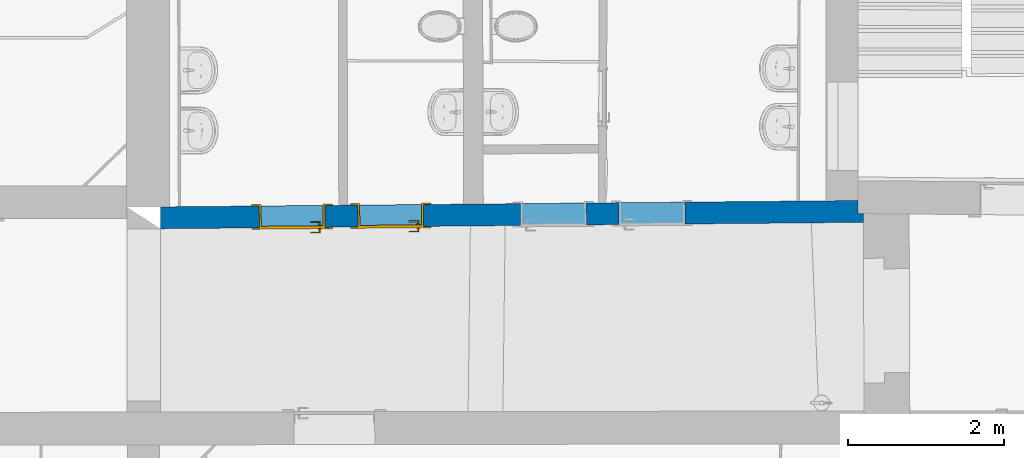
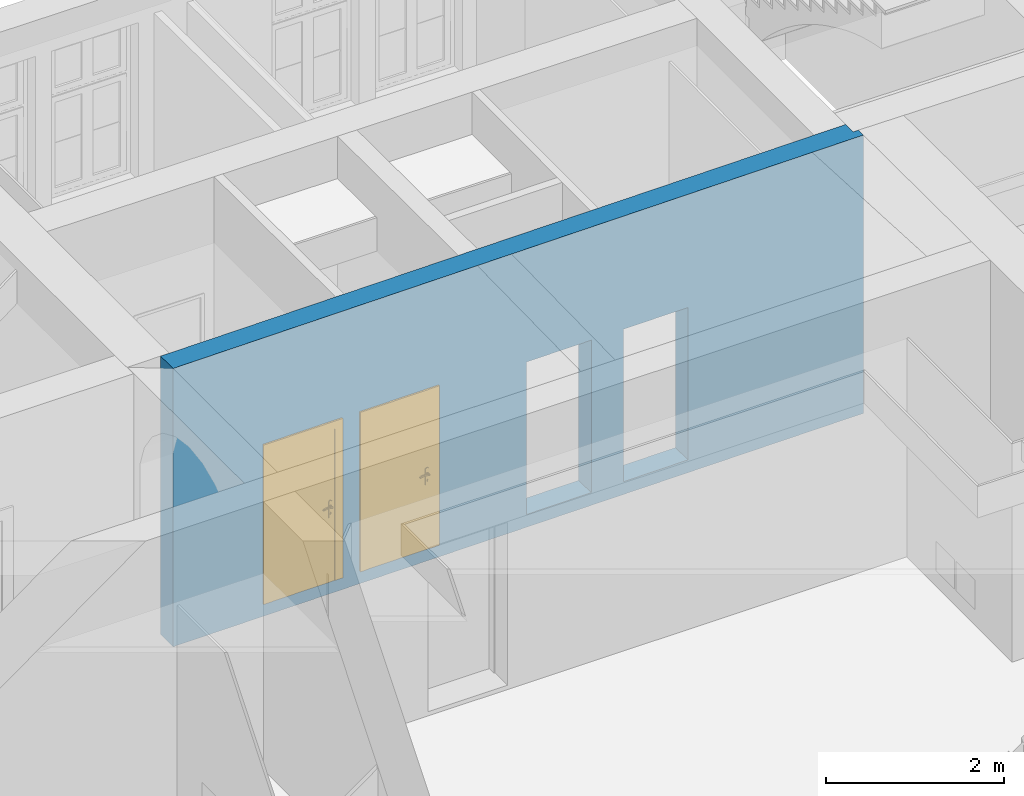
# One storey, part 64 of 158: 2 doors, 1 wall, 4 openings.
"""IFC2X3 building model written with IfcOpenShell, lengths in metres."""

from ifc_helpers import new_model, entity, si_unit, converted_unit, derived_unit, money_unit, direction, frame, origin_with_axes, origin_2d_with_axis, place, context, subcontext, project, spatial, polyline, rectangle, outline, extrude, boolean, faceted_brep, source, transform, mapped, material, type_object, element, fill, save


model = new_model("IFC2X3")

# Units and contexts
model_context = context("Model", 3, precision=1e-05, world=origin_with_axes(), true_north=direction((0.0, 1.0)))
body_context = subcontext(model_context, "Body", "Model", "MODEL_VIEW")
ifc_project = project(units=[si_unit("LENGTHUNIT", "METRE"), si_unit("AREAUNIT", "SQUARE_METRE"), si_unit("VOLUMEUNIT", "CUBIC_METRE"), converted_unit("PLANEANGLEUNIT", "DEGREE", entity("IfcPlaneAngleMeasure", 0.0174532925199), si_unit("PLANEANGLEUNIT", "RADIAN"), dimensions=[0, 0, 0, 0, 0, 0, 0]), money_unit("EUR"), converted_unit("TIMEUNIT", "Year", entity("IfcTimeMeasure", 31556926.0), si_unit("TIMEUNIT", "SECOND"), dimensions=[0, 0, 1, 0, 0, 0, 0]), si_unit("MASSUNIT", "GRAM", prefix="KILO"), si_unit("THERMODYNAMICTEMPERATUREUNIT", "DEGREE_CELSIUS"), si_unit("LUMINOUSINTENSITYUNIT", "LUMEN"), si_unit("ENERGYUNIT", "JOULE", prefix="MEGA"), derived_unit("THERMALCONDUCTANCEUNIT", [(si_unit("POWERUNIT", "WATT"), 1), (si_unit("LENGTHUNIT", "METRE"), -1), (si_unit("THERMODYNAMICTEMPERATUREUNIT", "KELVIN"), -1)]), derived_unit("SPECIFICHEATCAPACITYUNIT", [(si_unit("ENERGYUNIT", "JOULE"), 1), (si_unit("MASSUNIT", "GRAM", prefix="KILO"), -1), (si_unit("THERMODYNAMICTEMPERATUREUNIT", "KELVIN"), -1)]), derived_unit("MASSDENSITYUNIT", [(si_unit("MASSUNIT", "GRAM", prefix="KILO"), 1), (si_unit("VOLUMEUNIT", "CUBIC_METRE"), -1)])], contexts=[model_context])

# Site, building, storey
site_placement = place(None, origin_with_axes())
site = spatial("IfcSite", under=ifc_project, at=site_placement, Name="Gelände", CompositionType="ELEMENT")
building_placement = place(site_placement, origin_with_axes())
building = spatial("IfcBuilding", under=site, at=building_placement, Name="Gebäude", CompositionType="ELEMENT")
storey_placement = place(building_placement, origin_with_axes())
storey = spatial("IfcBuildingStorey", under=building, at=storey_placement, Name="ERDGESCHOSS", CompositionType="ELEMENT", Elevation=0.0)

# Wall, openings, doors
ifc_material = material(Name="05_ALLGEMEIN - TRAGENDE BAUTEILE")
wall_type = type_object("IfcWallType", Name="05_ALLGEMEIN - TRAGENDE BAUTEILE 280", PredefinedType="ELEMENTEDWALL")
wall_placement = place(storey_placement, frame((12.5468745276, 19.1446213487, -0.21), z_axis=(0.0, 0.0, 1.0), x_axis=(0.999958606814, 0.0090986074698, 0.0)))
wall = element("IfcWall", 1, at=wall_placement, inside=storey, type_object=wall_type, material=ifc_material, Name="Wand-039", ObjectType="ELEMENTEDWALL", context=body_context, shape_type="CSG", body=[
    boolean("DIFFERENCE", boolean("DIFFERENCE", extrude(outline(polyline([(0.0, 0.0), (10.0039420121, 0.0), (10.0039420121, 0.28), (0.0, 0.28), (0.0, 0.0)])), frame((0.0, 0.0, -4.88479656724e-09), z_axis=(0.0, 0.0, 1.0), x_axis=(1.0, 0.0, 0.0)), (0.0, 0.0, 1.0), 3.81000000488), faceted_brep([(0.430900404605, 0.0, 0.0), (0.430900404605, 0.0, 3.81), (0.0, 0.0, 3.81), (0.0, 0.0, -4.88479656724e-09), (0.433312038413, 0.28, 3.81), (0.433312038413, 0.28, 0.0), (0.0, 0.28, 3.81), (0.0, 0.28, -4.88479656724e-09)], [[[0, 1, 2, 3]], [[4, 1, 0, 5]], [[1, 4, 6, 2]], [[6, 7, 3, 2]], [[5, 0, 3, 7]], [[4, 5, 7, 6]]])), faceted_brep([(9.34821729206, 0.113054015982, 3.81), (9.41806479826, 0.111830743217, 3.81), (9.41739932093, 0.0, 3.81), (10.0039420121, 0.0, 3.81), (10.0039420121, 0.28, 3.81), (9.34995403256, 0.28, 3.81), (9.34821729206, 0.113054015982, -4.88479656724e-09), (9.41806479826, 0.111830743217, -4.88479656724e-09), (9.41739932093, 0.0, 0.0), (10.0039420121, 0.0, -4.88479656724e-09), (10.0039420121, 0.28, -4.88479656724e-09), (9.34995403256, 0.28, -4.88479656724e-09)], [[[0, 1, 2, 3, 4, 5]], [[1, 0, 6, 7]], [[8, 2, 1, 7]], [[2, 8, 9, 3]], [[3, 9, 10, 4]], [[11, 5, 4, 10]], [[0, 5, 11, 6]], [[6, 11, 10, 9, 8, 7]]])),
])
opening_1_placement = place(wall_placement, frame((2.11429402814, 0.0, 0.174823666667), z_axis=(0.0, 0.0, 1.0), x_axis=(1.0, 0.0, 0.0)))
opening_1 = element("IfcOpeningElement", 2, at=opening_1_placement, cuts=wall, Name="Tür-022", context=body_context, shape_type="SweptSolid", body=[
    extrude(rectangle(XDim=0.840428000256, YDim=2.086604, at=origin_2d_with_axis()), frame((0.0, -0.28, 1.043302), z_axis=(0.0, 1.0, 0.0), x_axis=(-1.0, 0.0, 0.0)), (0.0, 0.0, 1.0), 0.84),
])
opening_2_placement = place(wall_placement, frame((3.37398862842, 0.0, 0.174823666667), z_axis=(0.0, 0.0, 1.0), x_axis=(1.0, 0.0, 0.0)))
opening_2 = element("IfcOpeningElement", 3, at=opening_2_placement, cuts=wall, Name="Tür-022", context=body_context, shape_type="SweptSolid", body=[
    extrude(rectangle(XDim=0.840428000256, YDim=2.086604, at=origin_2d_with_axis()), frame((0.0, -0.28, 1.043302), z_axis=(0.0, 1.0, 0.0), x_axis=(-1.0, 0.0, 0.0)), (0.0, 0.0, 1.0), 0.84),
])
opening_3_placement = place(wall_placement, frame((5.45457419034, 0.0, 0.174823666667), z_axis=(0.0, 0.0, 1.0), x_axis=(1.0, 0.0, 0.0)))
element("IfcOpeningElement", 4, at=opening_3_placement, cuts=wall, Name="Tür-022", context=body_context, shape_type="SweptSolid", body=[
    extrude(rectangle(XDim=0.840428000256, YDim=2.086604, at=origin_2d_with_axis()), frame((0.0, 0.28, 1.043302), z_axis=(0.0, 1.0, 0.0), x_axis=(1.0, 0.0, 0.0)), (0.0, 0.0, -1.0), 0.84),
])
opening_4_placement = place(wall_placement, frame((6.71486413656, 0.0, 0.174823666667), z_axis=(0.0, 0.0, 1.0), x_axis=(1.0, 0.0, 0.0)))
element("IfcOpeningElement", 5, at=opening_4_placement, cuts=wall, Name="Tür-022", context=body_context, shape_type="SweptSolid", body=[
    extrude(rectangle(XDim=0.840428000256, YDim=2.086604, at=origin_2d_with_axis()), frame((0.0, 0.28, 1.043302), z_axis=(0.0, 1.0, 0.0), x_axis=(1.0, 0.0, 0.0)), (0.0, 0.0, -1.0), 0.84),
])
door_style = type_object("IfcDoorStyle", Name="Blockrahmentür 1-Fl 25", ConstructionType="NOTDEFINED", OperationType="SINGLE_SWING_RIGHT", ParameterTakesPrecedence=False, Sizeable=False)
shared_shape = source(origin_with_axes(), body_context, "Body", "Brep", [
    faceted_brep([(0.420214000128, -0.34, 0.0), (0.420214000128, -0.06, 0.0), (0.420214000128, -0.06, 2.086604), (0.420214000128, -0.34, 2.086604), (0.395214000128, -0.34, 0.0), (0.395214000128, -0.06, 0.0), (0.395214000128, -0.06, 2.061604), (0.1151, -0.06, 2.061604), (0.0001, -0.06, 2.061604), (-0.395214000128, -0.06, 2.061604), (-0.395214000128, -0.06, 0.0), (-0.420214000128, -0.06, 0.0), (-0.420214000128, -0.06, 2.086604), (-0.420214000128, -0.34, 2.086604), (-0.420214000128, -0.34, 0.0), (-0.395214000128, -0.34, 0.0), (-0.395214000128, -0.34, 2.061604), (0.0001, -0.34, 2.061604), (0.1151, -0.34, 2.061604), (0.395214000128, -0.34, 2.061604)], [[[0, 1, 2, 3]], [[4, 5, 1, 0]], [[1, 5, 6, 7, 8, 9, 10, 11, 12, 2]], [[3, 2, 12, 13]], [[0, 3, 13, 14, 15, 16, 17, 18, 19, 4]], [[19, 6, 5, 4]], [[18, 7, 6, 19]], [[17, 8, 7, 18]], [[16, 9, 8, 17]], [[15, 10, 9, 16]], [[14, 11, 10, 15]], [[13, 12, 11, 14]]]),
    faceted_brep([(0.420214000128, -0.06, 0.0), (0.420214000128, -0.02, 0.0), (0.420214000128, -0.02, 2.086604), (0.420214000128, -0.06, 2.086604), (0.410214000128, -0.06, 0.0), (0.410214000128, -0.02, 0.0), (0.410214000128, -0.02, 2.076604), (0.1001, -0.02, 2.076604), (0.0151, -0.02, 2.076604), (-0.410214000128, -0.02, 2.076604), (-0.410214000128, -0.02, 0.0), (-0.420214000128, -0.02, 0.0), (-0.420214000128, -0.02, 2.086604), (-0.420214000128, -0.06, 2.086604), (-0.420214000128, -0.06, 0.0), (-0.410214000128, -0.06, 0.0), (-0.410214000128, -0.06, 2.076604), (0.0151, -0.06, 2.076604), (0.1001, -0.06, 2.076604), (0.410214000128, -0.06, 2.076604)], [[[0, 1, 2, 3]], [[4, 5, 1, 0]], [[1, 5, 6, 7, 8, 9, 10, 11, 12, 2]], [[3, 2, 12, 13]], [[0, 3, 13, 14, 15, 16, 17, 18, 19, 4]], [[19, 6, 5, 4]], [[18, 7, 6, 19]], [[17, 8, 7, 18]], [[16, 9, 8, 17]], [[15, 10, 9, 16]], [[14, 11, 10, 15]], [[13, 12, 11, 14]]]),
    faceted_brep([(0.515214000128, -0.34, 0.0), (0.515214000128, -0.32, 0.0), (0.515214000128, -0.32, 2.181604), (0.515214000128, -0.34, 2.181604), (0.420214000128, -0.34, 0.0), (0.420214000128, -0.32, 0.0), (0.420214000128, -0.32, 2.086604), (-0.420214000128, -0.32, 2.086604), (-0.420214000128, -0.32, 0.0), (-0.515214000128, -0.32, 0.0), (-0.515214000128, -0.32, 2.181604), (-0.515214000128, -0.34, 2.181604), (-0.515214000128, -0.34, 0.0), (-0.420214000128, -0.34, 0.0), (-0.420214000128, -0.34, 2.086604), (0.420214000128, -0.34, 2.086604)], [[[0, 1, 2, 3]], [[4, 5, 1, 0]], [[1, 5, 6, 7, 8, 9, 10, 2]], [[3, 2, 10, 11]], [[0, 3, 11, 12, 13, 14, 15, 4]], [[15, 6, 5, 4]], [[14, 7, 6, 15]], [[13, 8, 7, 14]], [[12, 9, 8, 13]], [[11, 10, 9, 12]]]),
    faceted_brep([(0.515214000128, -0.04, 0.0), (0.515214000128, -0.02, 0.0), (0.515214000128, -0.02, 2.181604), (0.515214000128, -0.04, 2.181604), (0.420214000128, -0.04, 0.0), (0.420214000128, -0.02, 0.0), (0.420214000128, -0.02, 2.086604), (-0.420214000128, -0.02, 2.086604), (-0.420214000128, -0.02, 0.0), (-0.515214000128, -0.02, 0.0), (-0.515214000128, -0.02, 2.181604), (-0.515214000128, -0.04, 2.181604), (-0.515214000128, -0.04, 0.0), (-0.420214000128, -0.04, 0.0), (-0.420214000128, -0.04, 2.086604), (0.420214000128, -0.04, 2.086604)], [[[0, 1, 2, 3]], [[4, 5, 1, 0]], [[1, 5, 6, 7, 8, 9, 10, 2]], [[3, 2, 10, 11]], [[0, 3, 11, 12, 13, 14, 15, 4]], [[15, 6, 5, 4]], [[14, 7, 6, 15]], [[13, 8, 7, 14]], [[12, 9, 8, 13]], [[11, 10, 9, 12]]]),
    faceted_brep([(0.410214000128, -0.023, 0.0), (-0.410214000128, -0.023, 0.0), (-0.410214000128, -0.023, 2.076604), (0.410214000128, -0.023, 2.076604), (0.410214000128, -0.06, 0.0), (-0.410214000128, -0.06, 0.0), (-0.410214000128, -0.06, 2.076604), (0.410214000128, -0.06, 2.076604)], [[[0, 1, 2, 3]], [[1, 0, 4, 5]], [[2, 1, 5, 6]], [[3, 2, 6, 7]], [[0, 3, 7, 4]], [[5, 4, 7, 6]]]),
    faceted_brep([(-0.354916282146, -0.1, 1.05647213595), (-0.350214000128, -0.1, 1.058), (-0.350214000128, -0.08, 1.058), (-0.354916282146, -0.08, 1.05647213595), (-0.357822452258, -0.1, 1.05247213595), (-0.357822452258, -0.1, 1.04752786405), (-0.354916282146, -0.1, 1.04352786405), (-0.350214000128, -0.1, 1.042), (-0.34551171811, -0.1, 1.04352786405), (-0.342605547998, -0.1, 1.04752786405), (-0.342605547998, -0.1, 1.05247213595), (-0.34551171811, -0.1, 1.05647213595), (-0.34551171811, -0.08, 1.05647213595), (-0.350214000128, -0.078, 1.06), (-0.356091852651, -0.078, 1.05809016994), (-0.357822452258, -0.08, 1.05247213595), (-0.357822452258, -0.08, 1.04752786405), (-0.354916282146, -0.08, 1.04352786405), (-0.350214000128, -0.08, 1.042), (-0.34551171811, -0.08, 1.04352786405), (-0.342605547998, -0.08, 1.04752786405), (-0.342605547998, -0.08, 1.05247213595), (-0.344336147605, -0.078, 1.05809016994), (-0.350214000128, -0.07, 1.06), (-0.356091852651, -0.07, 1.05809016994), (-0.359724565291, -0.078, 1.05309016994), (-0.359724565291, -0.078, 1.04690983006), (-0.356091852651, -0.078, 1.04190983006), (-0.350214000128, -0.078, 1.04), (-0.344336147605, -0.078, 1.04190983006), (-0.340703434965, -0.078, 1.04690983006), (-0.340703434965, -0.078, 1.05309016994), (-0.344336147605, -0.07, 1.05809016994), (-0.340703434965, -0.07, 1.05309016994), (-0.340703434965, -0.07, 1.04690983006), (-0.344336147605, -0.07, 1.04190983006), (-0.350214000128, -0.07, 1.04), (-0.356091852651, -0.07, 1.04190983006), (-0.359724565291, -0.07, 1.04690983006), (-0.359724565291, -0.07, 1.05309016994)], [[[0, 1, 2, 3]], [[1, 0, 4, 5, 6, 7, 8, 9, 10, 11]], [[1, 11, 12, 2]], [[3, 2, 13, 14]], [[4, 0, 3, 15]], [[5, 4, 15, 16]], [[6, 5, 16, 17]], [[7, 6, 17, 18]], [[8, 7, 18, 19]], [[9, 8, 19, 20]], [[10, 9, 20, 21]], [[11, 10, 21, 12]], [[2, 12, 22, 13]], [[14, 13, 23, 24]], [[15, 3, 14, 25]], [[16, 15, 25, 26]], [[17, 16, 26, 27]], [[18, 17, 27, 28]], [[19, 18, 28, 29]], [[20, 19, 29, 30]], [[21, 20, 30, 31]], [[12, 21, 31, 22]], [[13, 22, 32, 23]], [[23, 32, 33, 34, 35, 36, 37, 38, 39, 24]], [[25, 14, 24, 39]], [[26, 25, 39, 38]], [[27, 26, 38, 37]], [[28, 27, 37, 36]], [[29, 28, 36, 35]], [[30, 29, 35, 34]], [[31, 30, 34, 33]], [[22, 31, 33, 32]]]),
    faceted_brep([(-0.338025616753, -0.07, 1.11759695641), (-0.345770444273, -0.07, 1.12195567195), (-0.354657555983, -0.07, 1.12195567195), (-0.362402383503, -0.07, 1.11759695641), (-0.367014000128, -0.07, 1.11), (-0.372714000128, -0.07, 1.11), (-0.372714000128, -0.07, 0.89), (-0.367014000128, -0.07, 0.89), (-0.362402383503, -0.07, 0.882403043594), (-0.354657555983, -0.07, 0.878044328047), (-0.345770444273, -0.07, 0.878044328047), (-0.338025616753, -0.07, 0.882403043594), (-0.333414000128, -0.07, 0.89), (-0.327714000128, -0.07, 0.89), (-0.327714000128, -0.07, 1.11), (-0.333414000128, -0.07, 1.11), (-0.350214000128, -0.07, 0.967425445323), (-0.344838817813, -0.07, 0.965143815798), (-0.342746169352, -0.07, 0.959692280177), (-0.345214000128, -0.07, 0.9544), (-0.345214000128, -0.07, 0.9375), (-0.346678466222, -0.07, 0.933964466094), (-0.350214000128, -0.07, 0.9325), (-0.353749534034, -0.07, 0.933964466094), (-0.355214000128, -0.07, 0.9375), (-0.355214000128, -0.07, 0.9544), (-0.357681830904, -0.07, 0.959692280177), (-0.355589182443, -0.07, 0.965143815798), (-0.338025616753, -0.06, 1.11759695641), (-0.345770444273, -0.06, 1.12195567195), (-0.354657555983, -0.06, 1.12195567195), (-0.362402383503, -0.06, 1.11759695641), (-0.367014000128, -0.06, 1.11), (-0.372714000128, -0.06, 1.11), (-0.372714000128, -0.06, 0.89), (-0.367014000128, -0.06, 0.89), (-0.362402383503, -0.06, 0.882403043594), (-0.354657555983, -0.06, 0.878044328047), (-0.345770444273, -0.06, 0.878044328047), (-0.338025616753, -0.06, 0.882403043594), (-0.333414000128, -0.06, 0.89), (-0.327714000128, -0.06, 0.89), (-0.327714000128, -0.06, 1.11), (-0.333414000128, -0.06, 1.11), (-0.350214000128, -0.06, 0.967425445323), (-0.344838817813, -0.06, 0.965143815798), (-0.342746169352, -0.06, 0.959692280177), (-0.345214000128, -0.06, 0.9544), (-0.345214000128, -0.06, 0.9375), (-0.346678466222, -0.06, 0.933964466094), (-0.350214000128, -0.06, 0.9325), (-0.353749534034, -0.06, 0.933964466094), (-0.355214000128, -0.06, 0.9375), (-0.355214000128, -0.06, 0.9544), (-0.357681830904, -0.06, 0.959692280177), (-0.355589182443, -0.06, 0.965143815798)], [[[0, 1, 2, 3, 4, 5, 6, 7, 8, 9, 10, 11, 12, 13, 14, 15], [16, 17, 18, 19, 20, 21, 22, 23, 24, 25, 26, 27]], [[1, 0, 28, 29]], [[2, 1, 29, 30]], [[3, 2, 30, 31]], [[4, 3, 31, 32]], [[5, 4, 32, 33]], [[6, 5, 33, 34]], [[7, 6, 34, 35]], [[8, 7, 35, 36]], [[9, 8, 36, 37]], [[10, 9, 37, 38]], [[11, 10, 38, 39]], [[12, 11, 39, 40]], [[13, 12, 40, 41]], [[14, 13, 41, 42]], [[15, 14, 42, 43]], [[0, 15, 43, 28]], [[17, 16, 44, 45]], [[18, 17, 45, 46]], [[19, 18, 46, 47]], [[19, 47, 48, 20]], [[20, 48, 49, 21]], [[21, 49, 50, 22]], [[22, 50, 51, 23]], [[23, 51, 52, 24]], [[53, 25, 24, 52]], [[26, 25, 53, 54]], [[27, 26, 54, 55]], [[16, 27, 55, 44]], [[40, 39, 38, 37, 36, 35, 34, 33, 32, 31, 30, 29, 28, 43, 42, 41], [54, 53, 52, 51, 50, 49, 48, 47, 46, 45, 44, 55]]]),
    faceted_brep([(-0.235961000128, -0.1, 1.057158), (-0.235961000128, -0.115, 1.057158), (-0.235959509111, -0.115, 1.05719388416), (-0.235959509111, -0.1, 1.05719388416), (-0.262988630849, -0.1, 1.06432652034), (-0.262988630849, -0.115, 1.06432652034), (-0.290816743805, -0.115, 1.06706086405), (-0.318722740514, -0.115, 1.06529002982), (-0.345982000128, -0.115, 1.05906), (-0.352384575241, -0.115, 1.05976125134), (-0.357886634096, -0.115, 1.05641280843), (-0.360205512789, -0.115, 1.05040385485), (-0.35837916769, -0.115, 1.04422735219), (-0.353165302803, -0.115, 1.04044577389), (-0.346727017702, -0.115, 1.04062800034), (-0.341735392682, -0.115, 1.04469843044), (-0.341756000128, -0.115, 1.044666), (-0.316467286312, -0.115, 1.05019878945), (-0.290624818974, -0.115, 1.05171460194), (-0.26486268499, -0.115, 1.04917624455), (-0.239813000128, -0.115, 1.042646), (-0.234269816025, -0.115, 1.04356849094), (-0.230908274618, -0.115, 1.04807159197), (-0.231599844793, -0.115, 1.05364829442), (-0.231599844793, -0.1, 1.05364829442), (-0.230908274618, -0.1, 1.04807159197), (-0.234269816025, -0.1, 1.04356849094), (-0.239813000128, -0.1, 1.042646), (-0.26486268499, -0.1, 1.04917624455), (-0.290624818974, -0.1, 1.05171460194), (-0.316467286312, -0.1, 1.05019878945), (-0.341756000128, -0.1, 1.044666), (-0.341735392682, -0.1, 1.04469843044), (-0.346727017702, -0.1, 1.04062800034), (-0.353165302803, -0.1, 1.04044577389), (-0.35837916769, -0.1, 1.04422735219), (-0.360205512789, -0.1, 1.05040385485), (-0.357886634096, -0.1, 1.05641280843), (-0.352384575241, -0.1, 1.05976125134), (-0.345982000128, -0.1, 1.05906), (-0.318722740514, -0.1, 1.06529002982), (-0.290816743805, -0.1, 1.06706086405)], [[[0, 1, 2, 3]], [[4, 5, 1, 0]], [[1, 5, 6, 7, 8, 9, 10, 11, 12, 13, 14, 15, 16, 17, 18, 19, 20, 21, 22, 23, 2]], [[3, 2, 23, 24]], [[0, 3, 24, 25, 26, 27, 28, 29, 30, 31, 32, 33, 34, 35, 36, 37, 38, 39, 40, 41, 4]], [[41, 6, 5, 4]], [[40, 7, 6, 41]], [[39, 8, 7, 40]], [[38, 9, 8, 39]], [[37, 10, 9, 38]], [[36, 11, 10, 37]], [[35, 12, 11, 36]], [[34, 13, 12, 35]], [[33, 14, 13, 34]], [[32, 15, 14, 33]], [[31, 16, 15, 32]], [[30, 17, 16, 31]], [[29, 18, 17, 30]], [[28, 19, 18, 29]], [[27, 20, 19, 28]], [[26, 21, 20, 27]], [[25, 22, 21, 26]], [[24, 23, 22, 25]]]),
    faceted_brep([(-0.354916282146, 0.017, 1.05647213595), (-0.354916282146, -0.003, 1.05647213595), (-0.350214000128, -0.003, 1.058), (-0.350214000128, 0.017, 1.058), (-0.357822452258, 0.017, 1.05247213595), (-0.357822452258, -0.003, 1.05247213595), (-0.356091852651, -0.005, 1.05809016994), (-0.350214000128, -0.005, 1.06), (-0.34551171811, -0.003, 1.05647213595), (-0.34551171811, 0.017, 1.05647213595), (-0.342605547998, 0.017, 1.05247213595), (-0.342605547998, 0.017, 1.04752786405), (-0.34551171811, 0.017, 1.04352786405), (-0.350214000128, 0.017, 1.042), (-0.354916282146, 0.017, 1.04352786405), (-0.357822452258, 0.017, 1.04752786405), (-0.357822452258, -0.003, 1.04752786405), (-0.359724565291, -0.005, 1.05309016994), (-0.356091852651, -0.013, 1.05809016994), (-0.350214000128, -0.013, 1.06), (-0.344336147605, -0.005, 1.05809016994), (-0.342605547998, -0.003, 1.05247213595), (-0.342605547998, -0.003, 1.04752786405), (-0.34551171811, -0.003, 1.04352786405), (-0.350214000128, -0.003, 1.042), (-0.354916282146, -0.003, 1.04352786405), (-0.359724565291, -0.005, 1.04690983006), (-0.359724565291, -0.013, 1.05309016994), (-0.359724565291, -0.013, 1.04690983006), (-0.356091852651, -0.013, 1.04190983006), (-0.350214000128, -0.013, 1.04), (-0.344336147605, -0.013, 1.04190983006), (-0.340703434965, -0.013, 1.04690983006), (-0.340703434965, -0.013, 1.05309016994), (-0.344336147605, -0.013, 1.05809016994), (-0.340703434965, -0.005, 1.05309016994), (-0.340703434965, -0.005, 1.04690983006), (-0.344336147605, -0.005, 1.04190983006), (-0.350214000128, -0.005, 1.04), (-0.356091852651, -0.005, 1.04190983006)], [[[0, 1, 2, 3]], [[4, 5, 1, 0]], [[1, 6, 7, 2]], [[3, 2, 8, 9]], [[3, 9, 10, 11, 12, 13, 14, 15, 4, 0]], [[15, 16, 5, 4]], [[5, 17, 6, 1]], [[6, 18, 19, 7]], [[2, 7, 20, 8]], [[9, 8, 21, 10]], [[10, 21, 22, 11]], [[11, 22, 23, 12]], [[12, 23, 24, 13]], [[13, 24, 25, 14]], [[14, 25, 16, 15]], [[16, 26, 17, 5]], [[17, 27, 18, 6]], [[19, 18, 27, 28, 29, 30, 31, 32, 33, 34]], [[7, 19, 34, 20]], [[8, 20, 35, 21]], [[21, 35, 36, 22]], [[22, 36, 37, 23]], [[23, 37, 38, 24]], [[24, 38, 39, 25]], [[25, 39, 26, 16]], [[26, 28, 27, 17]], [[39, 29, 28, 26]], [[38, 30, 29, 39]], [[37, 31, 30, 38]], [[36, 32, 31, 37]], [[35, 33, 32, 36]], [[20, 34, 33, 35]]]),
    faceted_brep([(-0.338025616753, -0.023, 1.11759695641), (-0.345770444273, -0.023, 1.12195567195), (-0.354657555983, -0.023, 1.12195567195), (-0.362402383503, -0.023, 1.11759695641), (-0.367014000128, -0.023, 1.11), (-0.372714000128, -0.023, 1.11), (-0.372714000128, -0.023, 0.89), (-0.367014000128, -0.023, 0.89), (-0.362402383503, -0.023, 0.882403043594), (-0.354657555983, -0.023, 0.878044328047), (-0.345770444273, -0.023, 0.878044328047), (-0.338025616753, -0.023, 0.882403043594), (-0.333414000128, -0.023, 0.89), (-0.327714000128, -0.023, 0.89), (-0.327714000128, -0.023, 1.11), (-0.333414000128, -0.023, 1.11), (-0.350214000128, -0.023, 0.967425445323), (-0.344838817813, -0.023, 0.965143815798), (-0.342746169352, -0.023, 0.959692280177), (-0.345214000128, -0.023, 0.9544), (-0.345214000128, -0.023, 0.9375), (-0.346678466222, -0.023, 0.933964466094), (-0.350214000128, -0.023, 0.9325), (-0.353749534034, -0.023, 0.933964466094), (-0.355214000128, -0.023, 0.9375), (-0.355214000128, -0.023, 0.9544), (-0.357681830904, -0.023, 0.959692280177), (-0.355589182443, -0.023, 0.965143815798), (-0.345770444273, -0.013, 1.12195567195), (-0.338025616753, -0.013, 1.11759695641), (-0.354657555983, -0.013, 1.12195567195), (-0.362402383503, -0.013, 1.11759695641), (-0.367014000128, -0.013, 1.11), (-0.372714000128, -0.013, 1.11), (-0.372714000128, -0.013, 0.89), (-0.367014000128, -0.013, 0.89), (-0.362402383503, -0.013, 0.882403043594), (-0.354657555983, -0.013, 0.878044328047), (-0.345770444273, -0.013, 0.878044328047), (-0.338025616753, -0.013, 0.882403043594), (-0.333414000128, -0.013, 0.89), (-0.327714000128, -0.013, 0.89), (-0.327714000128, -0.013, 1.11), (-0.333414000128, -0.013, 1.11), (-0.350214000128, -0.013, 0.967425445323), (-0.344838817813, -0.013, 0.965143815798), (-0.342746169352, -0.013, 0.959692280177), (-0.345214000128, -0.013, 0.9544), (-0.345214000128, -0.013, 0.9375), (-0.346678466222, -0.013, 0.933964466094), (-0.350214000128, -0.013, 0.9325), (-0.353749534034, -0.013, 0.933964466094), (-0.355214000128, -0.013, 0.9375), (-0.355214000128, -0.013, 0.9544), (-0.357681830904, -0.013, 0.959692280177), (-0.355589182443, -0.013, 0.965143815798)], [[[0, 1, 2, 3, 4, 5, 6, 7, 8, 9, 10, 11, 12, 13, 14, 15], [16, 17, 18, 19, 20, 21, 22, 23, 24, 25, 26, 27]], [[28, 1, 0, 29]], [[30, 2, 1, 28]], [[31, 3, 2, 30]], [[32, 4, 3, 31]], [[33, 5, 4, 32]], [[34, 6, 5, 33]], [[35, 7, 6, 34]], [[36, 8, 7, 35]], [[37, 9, 8, 36]], [[38, 10, 9, 37]], [[39, 11, 10, 38]], [[40, 12, 11, 39]], [[41, 13, 12, 40]], [[42, 14, 13, 41]], [[43, 15, 14, 42]], [[29, 0, 15, 43]], [[17, 16, 44, 45]], [[18, 17, 45, 46]], [[19, 18, 46, 47]], [[19, 47, 48, 20]], [[20, 48, 49, 21]], [[21, 49, 50, 22]], [[22, 50, 51, 23]], [[23, 51, 52, 24]], [[53, 25, 24, 52]], [[26, 25, 53, 54]], [[27, 26, 54, 55]], [[16, 27, 55, 44]], [[40, 39, 38, 37, 36, 35, 34, 33, 32, 31, 30, 28, 29, 43, 42, 41], [54, 53, 52, 51, 50, 49, 48, 47, 46, 45, 44, 55]]]),
    faceted_brep([(-0.235961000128, 0.017, 1.057158), (-0.235959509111, 0.017, 1.05719388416), (-0.235959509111, 0.032, 1.05719388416), (-0.235961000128, 0.032, 1.057158), (-0.262988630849, 0.017, 1.06432652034), (-0.290816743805, 0.017, 1.06706086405), (-0.318722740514, 0.017, 1.06529002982), (-0.345982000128, 0.017, 1.05906), (-0.352384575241, 0.017, 1.05976125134), (-0.357886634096, 0.017, 1.05641280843), (-0.360205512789, 0.017, 1.05040385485), (-0.35837916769, 0.017, 1.04422735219), (-0.353165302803, 0.017, 1.04044577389), (-0.346727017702, 0.017, 1.04062800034), (-0.341735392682, 0.017, 1.04469843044), (-0.341756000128, 0.017, 1.044666), (-0.316467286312, 0.017, 1.05019878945), (-0.290624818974, 0.017, 1.05171460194), (-0.26486268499, 0.017, 1.04917624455), (-0.239813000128, 0.017, 1.042646), (-0.234269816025, 0.017, 1.04356849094), (-0.230908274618, 0.017, 1.04807159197), (-0.231599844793, 0.017, 1.05364829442), (-0.231599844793, 0.032, 1.05364829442), (-0.230908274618, 0.032, 1.04807159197), (-0.234269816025, 0.032, 1.04356849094), (-0.239813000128, 0.032, 1.042646), (-0.26486268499, 0.032, 1.04917624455), (-0.290624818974, 0.032, 1.05171460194), (-0.316467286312, 0.032, 1.05019878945), (-0.341756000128, 0.032, 1.044666), (-0.341735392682, 0.032, 1.04469843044), (-0.346727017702, 0.032, 1.04062800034), (-0.353165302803, 0.032, 1.04044577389), (-0.35837916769, 0.032, 1.04422735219), (-0.360205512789, 0.032, 1.05040385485), (-0.357886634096, 0.032, 1.05641280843), (-0.352384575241, 0.032, 1.05976125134), (-0.345982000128, 0.032, 1.05906), (-0.318722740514, 0.032, 1.06529002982), (-0.290816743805, 0.032, 1.06706086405), (-0.262988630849, 0.032, 1.06432652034)], [[[0, 1, 2, 3]], [[0, 4, 5, 6, 7, 8, 9, 10, 11, 12, 13, 14, 15, 16, 17, 18, 19, 20, 21, 22, 1]], [[1, 22, 23, 2]], [[3, 2, 23, 24, 25, 26, 27, 28, 29, 30, 31, 32, 33, 34, 35, 36, 37, 38, 39, 40, 41]], [[4, 0, 3, 41]], [[5, 4, 41, 40]], [[6, 5, 40, 39]], [[7, 6, 39, 38]], [[8, 7, 38, 37]], [[9, 8, 37, 36]], [[10, 9, 36, 35]], [[11, 10, 35, 34]], [[12, 11, 34, 33]], [[13, 12, 33, 32]], [[14, 13, 32, 31]], [[15, 14, 31, 30]], [[16, 15, 30, 29]], [[17, 16, 29, 28]], [[18, 17, 28, 27]], [[19, 18, 27, 26]], [[20, 19, 26, 25]], [[21, 20, 25, 24]], [[22, 21, 24, 23]]]),
])
door_1_placement = place(opening_1_placement, frame((0.395214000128, 0.0, 0.0), z_axis=(0.0, 0.0, 1.0), x_axis=(-1.0, 0.0, 0.0)))
door_1 = element("IfcDoor", 6, at=door_1_placement, inside=storey, type_object=door_style, Name="Tür-022", ObjectType="NOTDEFINED", OverallHeight=2.0866, OverallWidth=0.840428, context=body_context, shape_type="MappedRepresentation", body=[
    mapped(shared_shape, transform((0.395214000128, 0.04, 0.0))),
])
fill(opening_1, door_1)
door_2_placement = place(opening_2_placement, frame((0.395214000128, 0.0, 0.0), z_axis=(0.0, 0.0, 1.0), x_axis=(-1.0, 0.0, 0.0)))
door_2 = element("IfcDoor", 7, at=door_2_placement, inside=storey, type_object=door_style, Name="Tür-022", ObjectType="NOTDEFINED", OverallHeight=2.0866, OverallWidth=0.840428, context=body_context, shape_type="MappedRepresentation", body=[
    mapped(shared_shape, transform((0.395214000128, 0.04, 0.0))),
])
fill(opening_2, door_2)

save(model, "model.ifc")
